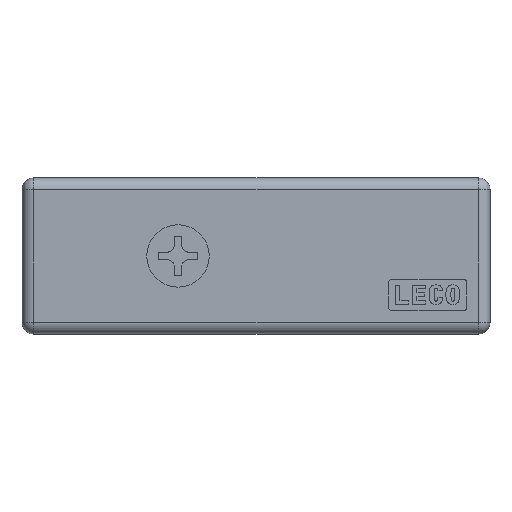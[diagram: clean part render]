
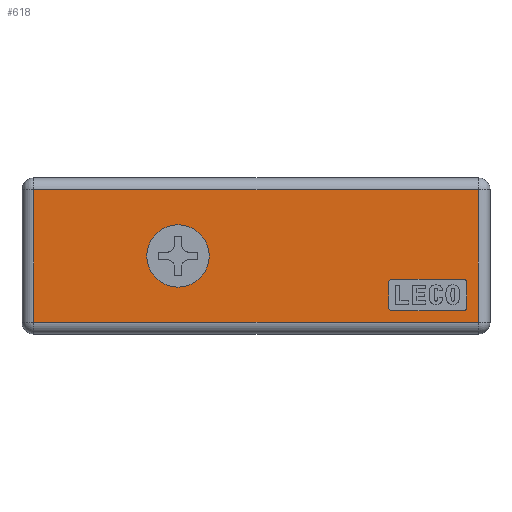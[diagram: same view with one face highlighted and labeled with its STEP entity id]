
A CAD part, top view. The second image highlights one B-rep face of the part: STEP entity #618.
In plain terms, the highlighted planar face has unit normal (0, 0, 1).
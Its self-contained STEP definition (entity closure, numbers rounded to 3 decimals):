
#618=ADVANCED_FACE('',(#1257,#1258,#1259),#1260,.F.);
#1257=FACE_BOUND('',#5110,.T.);
#1258=FACE_BOUND('',#5111,.T.);
#1259=FACE_OUTER_BOUND('',#5112,.T.);
#1260=PLANE('',#5113);
#5110=EDGE_LOOP('',(#6808,#6809,#6810,#6811,#6812,#6813,#6814,#6815));
#5111=EDGE_LOOP('',(#6816));
#5112=EDGE_LOOP('',(#6817,#6818,#6819,#6820));
#5113=AXIS2_PLACEMENT_3D('',#6821,#6822,#6823);
#6808=ORIENTED_EDGE('',*,*,#7317,.F.);
#6809=ORIENTED_EDGE('',*,*,#7070,.F.);
#6810=ORIENTED_EDGE('',*,*,#7264,.F.);
#6811=ORIENTED_EDGE('',*,*,#7154,.F.);
#6812=ORIENTED_EDGE('',*,*,#7397,.F.);
#6813=ORIENTED_EDGE('',*,*,#7411,.F.);
#6814=ORIENTED_EDGE('',*,*,#7624,.F.);
#6815=ORIENTED_EDGE('',*,*,#7598,.F.);
#6816=ORIENTED_EDGE('',*,*,#7144,.T.);
#6817=ORIENTED_EDGE('',*,*,#7525,.T.);
#6818=ORIENTED_EDGE('',*,*,#7515,.T.);
#6819=ORIENTED_EDGE('',*,*,#7671,.F.);
#6820=ORIENTED_EDGE('',*,*,#7642,.F.);
#6821=CARTESIAN_POINT('',(65.604,18.5,3.));
#6822=DIRECTION('',(0.0,0.0,-1.0));
#6823=DIRECTION('',(1.0,0.0,0.0));
#7070=EDGE_CURVE('',#7875,#7876,#7877,.T.);
#7144=EDGE_CURVE('',#8002,#8002,#8003,.T.);
#7154=EDGE_CURVE('',#8018,#8019,#8020,.T.);
#7264=EDGE_CURVE('',#8019,#7875,#8188,.T.);
#7317=EDGE_CURVE('',#7876,#8263,#8264,.T.);
#7397=EDGE_CURVE('',#8379,#8018,#8380,.T.);
#7411=EDGE_CURVE('',#8399,#8379,#8400,.T.);
#7515=EDGE_CURVE('',#8505,#8173,#8538,.T.);
#7525=EDGE_CURVE('',#8434,#8505,#8549,.T.);
#7598=EDGE_CURVE('',#8263,#8633,#8634,.T.);
#7624=EDGE_CURVE('',#8633,#8399,#8664,.T.);
#7642=EDGE_CURVE('',#8434,#8589,#8683,.T.);
#7671=EDGE_CURVE('',#8589,#8173,#8713,.T.);
#7875=VERTEX_POINT('',#8965);
#7876=VERTEX_POINT('',#8966);
#7877=CIRCLE('',#8967,0.4);
#8002=VERTEX_POINT('',#9340);
#8003=CIRCLE('',#9341,4.0);
#8018=VERTEX_POINT('',#9359);
#8019=VERTEX_POINT('',#9360);
#8020=CIRCLE('',#9361,0.4);
#8173=VERTEX_POINT('',#9735);
#8188=LINE('',#9754,#9755);
#8263=VERTEX_POINT('',#9898);
#8264=LINE('',#9899,#9900);
#8379=VERTEX_POINT('',#10140);
#8380=LINE('',#10141,#10142);
#8399=VERTEX_POINT('',#10167);
#8400=CIRCLE('',#10168,0.4);
#8434=VERTEX_POINT('',#10216);
#8505=VERTEX_POINT('',#10588);
#8538=LINE('',#10632,#10633);
#8549=LINE('',#10647,#10648);
#8589=VERTEX_POINT('',#10790);
#8633=VERTEX_POINT('',#10880);
#8634=CIRCLE('',#10881,0.4);
#8664=LINE('',#10927,#10928);
#8683=LINE('',#10950,#10951);
#8713=LINE('',#10992,#10993);
#8965=CARTESIAN_POINT('',(47.4,7.,3.0));
#8966=CARTESIAN_POINT('',(47.,6.6,3.0));
#8967=AXIS2_PLACEMENT_3D('',#11175,#11176,#11177);
#9340=CARTESIAN_POINT('',(24.0,10.,3.0));
#9341=AXIS2_PLACEMENT_3D('',#11282,#11283,#11284);
#9359=CARTESIAN_POINT('',(57.,6.6,3.0));
#9360=CARTESIAN_POINT('',(56.6,7.,3.0));
#9361=AXIS2_PLACEMENT_3D('',#11297,#11298,#11299);
#9735=CARTESIAN_POINT('',(1.5,1.5,3.));
#9754=CARTESIAN_POINT('',(56.6,7.,3.0));
#9755=VECTOR('',#11422,1.0);
#9898=CARTESIAN_POINT('',(47.,3.4,3.0));
#9899=CARTESIAN_POINT('',(47.,6.6,3.0));
#9900=VECTOR('',#11492,1.0);
#10140=CARTESIAN_POINT('',(57.,3.4,3.0));
#10141=CARTESIAN_POINT('',(57.,3.4,3.0));
#10142=VECTOR('',#11583,1.0);
#10167=CARTESIAN_POINT('',(56.6,3.,3.0));
#10168=AXIS2_PLACEMENT_3D('',#11599,#11600,#11601);
#10216=CARTESIAN_POINT('',(58.5,18.5,3.));
#10588=CARTESIAN_POINT('',(1.5,18.5,3.));
#10632=CARTESIAN_POINT('',(1.5,25.16,3.));
#10633=VECTOR('',#11719,1.0);
#10647=CARTESIAN_POINT('',(65.604,18.5,3.));
#10648=VECTOR('',#11729,1.0);
#10790=CARTESIAN_POINT('',(58.5,1.5,3.));
#10880=CARTESIAN_POINT('',(47.4,3.,3.0));
#10881=AXIS2_PLACEMENT_3D('',#11818,#11819,#11820);
#10927=CARTESIAN_POINT('',(47.4,3.,3.0));
#10928=VECTOR('',#11856,1.0);
#10950=CARTESIAN_POINT('',(58.5,25.16,3.));
#10951=VECTOR('',#11872,1.0);
#10992=CARTESIAN_POINT('',(65.604,1.5,3.));
#10993=VECTOR('',#11884,1.0);
#11175=CARTESIAN_POINT('',(47.4,6.6,3.0));
#11176=DIRECTION('',(0.0,0.0,1.0));
#11177=DIRECTION('',(1.0,0.0,0.0));
#11282=CARTESIAN_POINT('',(20.0,10.,3.0));
#11283=DIRECTION('',(0.0,0.0,-1.0));
#11284=DIRECTION('',(1.0,0.0,0.0));
#11297=CARTESIAN_POINT('',(56.6,6.6,3.0));
#11298=DIRECTION('',(0.0,0.0,1.0));
#11299=DIRECTION('',(1.0,0.0,0.0));
#11422=DIRECTION('',(-1.0,0.0,0.0));
#11492=DIRECTION('',(0.0,-1.0,0.0));
#11583=DIRECTION('',(0.,1.0,0.0));
#11599=CARTESIAN_POINT('',(56.6,3.4,3.0));
#11600=DIRECTION('',(0.0,0.0,1.0));
#11601=DIRECTION('',(1.0,0.0,0.0));
#11719=DIRECTION('',(0.0,-1.0,0.0));
#11729=DIRECTION('',(-1.0,0.0,0.0));
#11818=CARTESIAN_POINT('',(47.4,3.4,3.0));
#11819=DIRECTION('',(0.0,0.0,1.0));
#11820=DIRECTION('',(1.0,0.0,0.0));
#11856=DIRECTION('',(1.0,0.,0.0));
#11872=DIRECTION('',(0.0,-1.0,0.0));
#11884=DIRECTION('',(-1.0,0.0,0.0));
